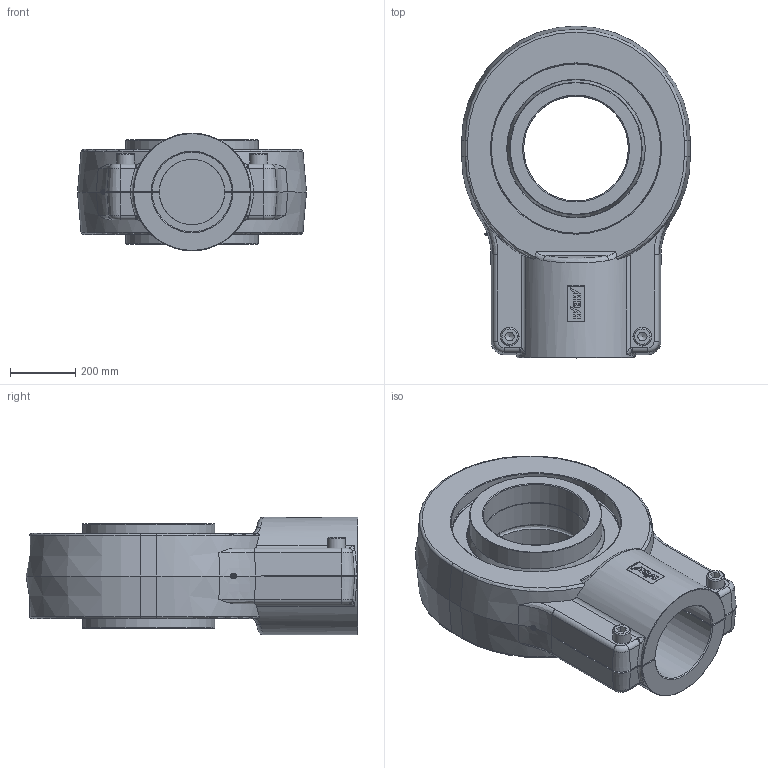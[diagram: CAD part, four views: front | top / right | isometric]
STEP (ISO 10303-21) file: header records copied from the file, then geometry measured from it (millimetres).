
FILE_DESCRIPTION((''),'2;1');
FILE_NAME('H:\WSW\Hydraulikgelenkköpfe\Aktuelle GK Zeichnungen andere Formate\WAPR..CE\WAPR..CE .STP\K-WAPR320CE.stp','2007-12-21T10:58:54',('oliver.joswig'),(''),'Autodesk Inventor 2008','Autodesk Inventor 2008','');
FILE_SCHEMA(('AUTOMOTIVE_DESIGN { 1 0 10303 214 1 1 1 1 }'));
Length unit declared in the file: millimetre
Products named in the file (7): K-WAPR320CE; F-WAPR320CE; GEEW320ES; GEEW_ES_IR mit Nut [Benennung=IR320LO][Breite=320 mm][Kugel=225 mm][Bund_D=202,5 mm][Freid_b=70 mm][Freid_D=161 mm][Bohr=160 mm][Fase=45 grd][R_rs=2,5 mm]; GEEW_ES_AR mit Nut [Benennung=AR_GEEW320ES][Kugel_dk=225mm][Breite=160mm][Radius_r1s=1,1mm][Aussendurchmessser=260mm]; DIN 71412  A  (Feingewinde) AM10 x 1 keg kurz; DIN 912  (Regelgewinde) - ersetzt durch DIN EN ISO 4762 M36 x 160
Assembly tree (7 placements, depth 3):
  K-WAPR320CE
    F-WAPR320CE
    GEEW320ES
      GEEW_ES_IR mit Nut [Benennung=IR320LO][Breite=320 mm][Kugel=225 mm][Bund_D=202,5 mm][Freid_b=70 mm][Freid_D=161 mm][Bohr=160 mm][Fase=45 grd][R_rs=2,5 mm]
      GEEW_ES_AR mit Nut [Benennung=AR_GEEW320ES][Kugel_dk=225mm][Breite=160mm][Radius_r1s=1,1mm][Aussendurchmessser=260mm]
    DIN 71412  A  (Feingewinde) AM10 x 1 keg kurz
    DIN 912  (Regelgewinde) - ersetzt durch DIN EN ISO 4762 M36 x 160  x2
Bounding box: 700 x 1015 x 360 mm (x, y, z)
Volume: 103994420.4 mm3; surface area: 3896062.9 mm2
Topology: 6 solids, 6 shells, 290 faces, 711 edges, 440 vertices
Faces by surface type: plane 111, cylinder 62, bspline 49, cone 42, torus 23, sphere 3
Full cylindrical faces by diameter (mm): 5 x1, 10 x1, 16.238 x2, 24.415 x2, 36 x2, 54 x2, 200 x1, 320 x2, 322 x2, 405 x2, 520 x5, 545 x2
Entity records: 12230 total; most frequent: CARTESIAN_POINT 6092, ORIENTED_EDGE 1210, DIRECTION 1178, EDGE_CURVE 605, AXIS2_PLACEMENT_3D 464, VERTEX_POINT 407, EDGE_LOOP 368, FACE_OUTER_BOUND 276
